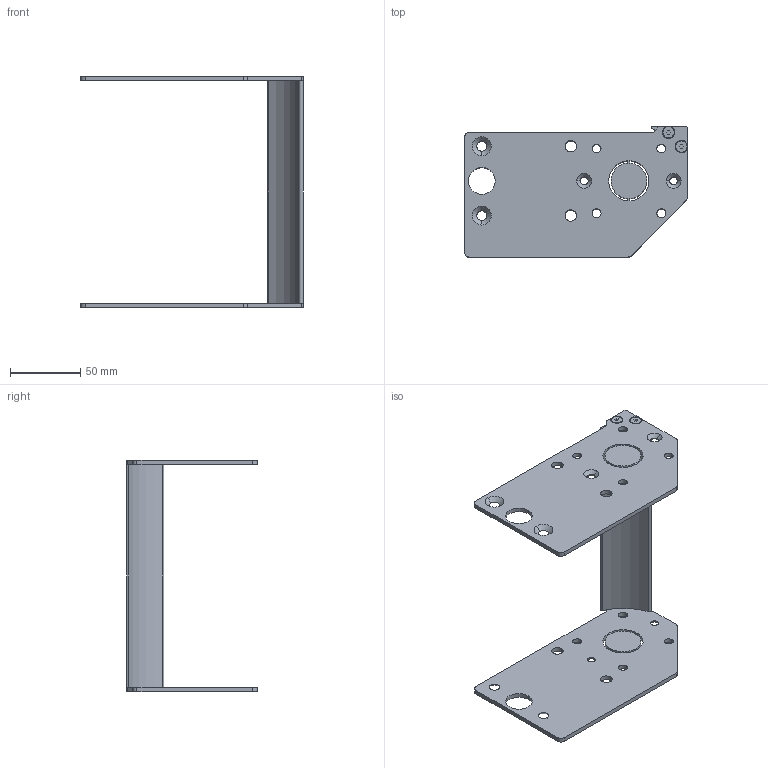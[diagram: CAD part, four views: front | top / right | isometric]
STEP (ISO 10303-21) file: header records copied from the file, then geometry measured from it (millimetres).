
FILE_DESCRIPTION((''),'2;1');
FILE_NAME('27M3300-04_ASM','2019-11-21T',('james.horst'),(''),'PRO/ENGINEER BY PARAMETRIC TECHNOLOGY CORPORATION, 2012420','PRO/ENGINEER BY PARAMETRIC TECHNOLOGY CORPORATION, 2012420','');
FILE_SCHEMA(('CONFIG_CONTROL_DESIGN'));
Length unit declared in the file: inch
Products named in the file (6): 350539-06; 350540; 350541; 930410M; 27M3300-10_ASM_1_ASM; 27M3300-04_ASM
Assembly tree (8 placements, depth 3):
  27M3300-04_ASM
    27M3300-10_ASM_1_ASM
      350539-06
      350540
      350541
      930410M  x4
Bounding box: 157.96 x 92.74 x 164.74 mm (x, y, z)
Volume: 123253 mm3; surface area: 74829 mm2
Topology: 7 solids, 11 shells, 206 faces, 556 edges, 368 vertices
Faces by surface type: cylinder 96, plane 70, cone 40
Entity records: 5540 total; most frequent: DIRECTION 1022, CARTESIAN_POINT 946, ORIENTED_EDGE 868, EDGE_CURVE 442, AXIS2_PLACEMENT_3D 408, VERTEX_POINT 296, CIRCLE 230, EDGE_LOOP 220
